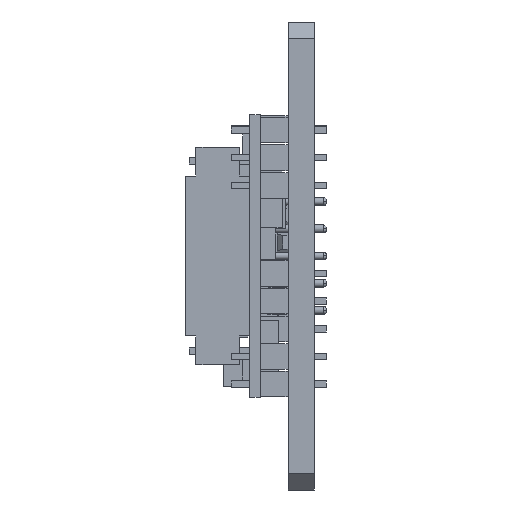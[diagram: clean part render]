
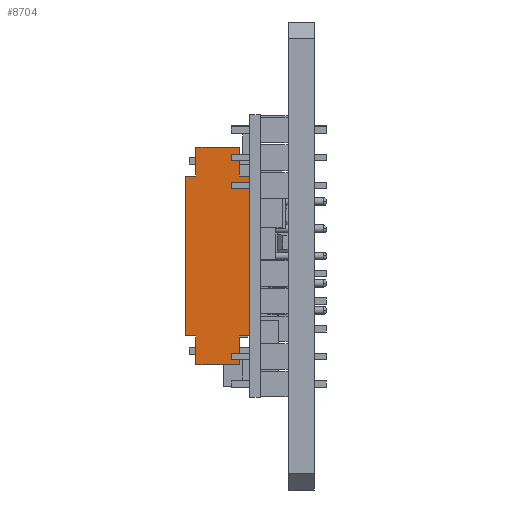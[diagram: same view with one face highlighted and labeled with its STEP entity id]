
A CAD part, left-side view. The second image highlights one B-rep face of the part: STEP entity #8704.
In plain terms, the highlighted planar face has unit normal (-1, 0, 0).
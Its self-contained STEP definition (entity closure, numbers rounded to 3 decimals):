
#163 = VERTEX_POINT ( 'NONE', #21531 ) ;
#214 = VERTEX_POINT ( 'NONE', #21582 ) ;
#236 = VERTEX_POINT ( 'NONE', #21604 ) ;
#437 = VERTEX_POINT ( 'NONE', #21799 ) ;
#628 = CARTESIAN_POINT ( 'NONE',  ( -19.197, 10.865, -10. ) ) ;
#632 = LINE ( 'NONE', #628, #22199 ) ;
#636 = DIRECTION ( 'NONE',  ( 0., 0., 1. ) ) ;
#916 = LINE ( 'NONE', #932, #13324 ) ;
#932 = CARTESIAN_POINT ( 'NONE',  ( -19.197, 6.865, -10. ) ) ;
#933 = DIRECTION ( 'NONE',  ( 0., 0., 1. ) ) ;
#1485 = AXIS2_PLACEMENT_3D ( 'NONE', #13795, #13816, #13818 ) ;
#2354 = CARTESIAN_POINT ( 'NONE',  ( -19.197, 10.865, 7.35 ) ) ;
#2355 = CARTESIAN_POINT ( 'NONE',  ( -19.197, 10.865, 10. ) ) ;
#3340 = VERTEX_POINT ( 'NONE', #21824 ) ;
#3341 = VERTEX_POINT ( 'NONE', #21825 ) ;
#3345 = VERTEX_POINT ( 'NONE', #21829 ) ;
#3357 = VERTEX_POINT ( 'NONE', #21841 ) ;
#3361 = VERTEX_POINT ( 'NONE', #21845 ) ;
#3362 = VERTEX_POINT ( 'NONE', #21846 ) ;
#5054 = VECTOR ( 'NONE', #12113, 1000. ) ;
#5073 = VECTOR ( 'NONE', #12442, 1000. ) ;
#5103 = VECTOR ( 'NONE', #12136, 1000. ) ;
#5200 = VECTOR ( 'NONE', #12382, 1000. ) ;
#5212 = VECTOR ( 'NONE', #12376, 1000. ) ;
#5215 = VECTOR ( 'NONE', #12424, 1000. ) ;
#5278 = VECTOR ( 'NONE', #12320, 1000. ) ;
#5292 = VECTOR ( 'NONE', #12292, 1000. ) ;
#5380 = VECTOR ( 'NONE', #12452, 1000. ) ;
#5622 = EDGE_CURVE ( 'NONE', #3345, #163, #12098, .T. ) ;
#5628 = EDGE_CURVE ( 'NONE', #15808, #3341, #12122, .T. ) ;
#5668 = EDGE_CURVE ( 'NONE', #437, #236, #12274, .T. ) ;
#5677 = EDGE_CURVE ( 'NONE', #3362, #15807, #12317, .T. ) ;
#5696 = EDGE_CURVE ( 'NONE', #3340, #3341, #12374, .T. ) ;
#5698 = EDGE_CURVE ( 'NONE', #3357, #3361, #12380, .T. ) ;
#5712 = EDGE_CURVE ( 'NONE', #3345, #3362, #12422, .T. ) ;
#5718 = EDGE_CURVE ( 'NONE', #214, #3357, #12440, .T. ) ;
#5721 = EDGE_CURVE ( 'NONE', #3340, #3361, #12449, .T. ) ;
#8210 = EDGE_LOOP ( 'NONE', ( #21463, #21462, #21461, #21460, #21459, #21458, #21457, #21456, #21455, #21454, #21453, #21452 ) ) ;
#8704 = ADVANCED_FACE ( 'NONE', ( #13810 ), #13812, .F. ) ;
#12098 = LINE ( 'NONE', #12110, #5054 ) ;
#12110 = CARTESIAN_POINT ( 'NONE',  ( -19.197, 11.79, -7.35 ) ) ;
#12113 = DIRECTION ( 'NONE',  ( 0., -1., 0. ) ) ;
#12122 = LINE ( 'NONE', #12134, #5103 ) ;
#12134 = CARTESIAN_POINT ( 'NONE',  ( -19.197, 10.865, 10. ) ) ;
#12136 = DIRECTION ( 'NONE',  ( 0., -1., 0. ) ) ;
#12274 = LINE ( 'NONE', #12291, #5292 ) ;
#12291 = CARTESIAN_POINT ( 'NONE',  ( -19.197, 10.865, -10. ) ) ;
#12292 = DIRECTION ( 'NONE',  ( 0., -1., 0. ) ) ;
#12317 = LINE ( 'NONE', #12319, #5278 ) ;
#12319 = CARTESIAN_POINT ( 'NONE',  ( -19.197, 11.79, 7.35 ) ) ;
#12320 = DIRECTION ( 'NONE',  ( 0., -1., 0. ) ) ;
#12374 = LINE ( 'NONE', #12375, #5212 ) ;
#12375 = CARTESIAN_POINT ( 'NONE',  ( -19.197, 6.865, -10. ) ) ;
#12376 = DIRECTION ( 'NONE',  ( 0., 0., 1. ) ) ;
#12380 = LINE ( 'NONE', #12381, #5200 ) ;
#12381 = CARTESIAN_POINT ( 'NONE',  ( -19.197, 5.94, -7.35 ) ) ;
#12382 = DIRECTION ( 'NONE',  ( 0., 0., 1. ) ) ;
#12422 = LINE ( 'NONE', #12423, #5215 ) ;
#12423 = CARTESIAN_POINT ( 'NONE',  ( -19.197, 11.79, -7.35 ) ) ;
#12424 = DIRECTION ( 'NONE',  ( 0., 0., 1. ) ) ;
#12440 = LINE ( 'NONE', #12441, #5073 ) ;
#12441 = CARTESIAN_POINT ( 'NONE',  ( -19.197, 11.79, -7.35 ) ) ;
#12442 = DIRECTION ( 'NONE',  ( 0., -1., 0. ) ) ;
#12449 = LINE ( 'NONE', #12451, #5380 ) ;
#12451 = CARTESIAN_POINT ( 'NONE',  ( -19.197, 11.79, 7.35 ) ) ;
#12452 = DIRECTION ( 'NONE',  ( 0., -1., 0. ) ) ;
#13324 = VECTOR ( 'NONE', #933, 1000. ) ;
#13795 = CARTESIAN_POINT ( 'NONE',  ( -19.197, 11.79, -7.35 ) ) ;
#13810 = FACE_OUTER_BOUND ( 'NONE', #8210, .T. ) ;
#13812 = PLANE ( 'NONE',  #1485 ) ;
#13816 = DIRECTION ( 'NONE',  ( 1., 0., 0. ) ) ;
#13818 = DIRECTION ( 'NONE',  ( 0., 0., -1. ) ) ;
#14133 = CARTESIAN_POINT ( 'NONE',  ( -19.197, 10.865, -10. ) ) ;
#14145 = LINE ( 'NONE', #14133, #20220 ) ;
#14150 = DIRECTION ( 'NONE',  ( 0., 0., 1. ) ) ;
#14562 = EDGE_CURVE ( 'NONE', #15807, #15808, #14145, .T. ) ;
#14637 = EDGE_CURVE ( 'NONE', #437, #163, #632, .T. ) ;
#14737 = EDGE_CURVE ( 'NONE', #236, #214, #916, .T. ) ;
#15807 = VERTEX_POINT ( 'NONE', #2354 ) ;
#15808 = VERTEX_POINT ( 'NONE', #2355 ) ;
#20220 = VECTOR ( 'NONE', #14150, 1000. ) ;
#21452 = ORIENTED_EDGE ( 'NONE', *, *, #5698, .T. ) ;
#21453 = ORIENTED_EDGE ( 'NONE', *, *, #5718, .T. ) ;
#21454 = ORIENTED_EDGE ( 'NONE', *, *, #14737, .T. ) ;
#21455 = ORIENTED_EDGE ( 'NONE', *, *, #5668, .T. ) ;
#21456 = ORIENTED_EDGE ( 'NONE', *, *, #14637, .F. ) ;
#21457 = ORIENTED_EDGE ( 'NONE', *, *, #5622, .T. ) ;
#21458 = ORIENTED_EDGE ( 'NONE', *, *, #5712, .F. ) ;
#21459 = ORIENTED_EDGE ( 'NONE', *, *, #5677, .F. ) ;
#21460 = ORIENTED_EDGE ( 'NONE', *, *, #14562, .F. ) ;
#21461 = ORIENTED_EDGE ( 'NONE', *, *, #5628, .F. ) ;
#21462 = ORIENTED_EDGE ( 'NONE', *, *, #5696, .T. ) ;
#21463 = ORIENTED_EDGE ( 'NONE', *, *, #5721, .F. ) ;
#21531 = CARTESIAN_POINT ( 'NONE',  ( -19.197, 10.865, -7.35 ) ) ;
#21582 = CARTESIAN_POINT ( 'NONE',  ( -19.197, 6.865, -7.35 ) ) ;
#21604 = CARTESIAN_POINT ( 'NONE',  ( -19.197, 6.865, -10. ) ) ;
#21799 = CARTESIAN_POINT ( 'NONE',  ( -19.197, 10.865, -10. ) ) ;
#21824 = CARTESIAN_POINT ( 'NONE',  ( -19.197, 6.865, 7.35 ) ) ;
#21825 = CARTESIAN_POINT ( 'NONE',  ( -19.197, 6.865, 10. ) ) ;
#21829 = CARTESIAN_POINT ( 'NONE',  ( -19.197, 11.79, -7.35 ) ) ;
#21841 = CARTESIAN_POINT ( 'NONE',  ( -19.197, 5.94, -7.35 ) ) ;
#21845 = CARTESIAN_POINT ( 'NONE',  ( -19.197, 5.94, 7.35 ) ) ;
#21846 = CARTESIAN_POINT ( 'NONE',  ( -19.197, 11.79, 7.35 ) ) ;
#22199 = VECTOR ( 'NONE', #636, 1000. ) ;
